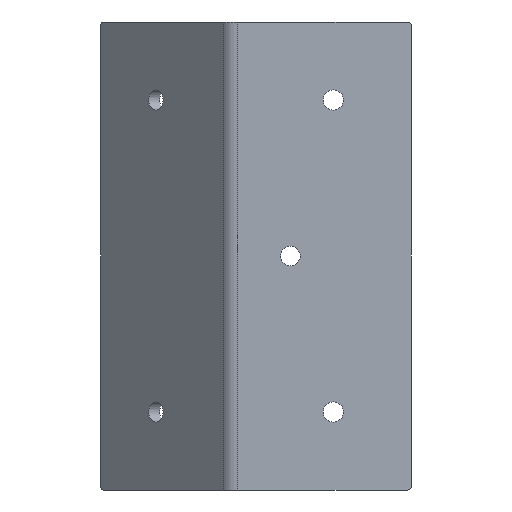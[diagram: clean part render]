
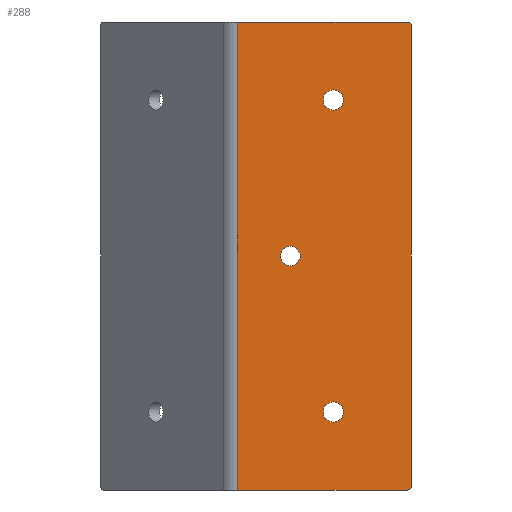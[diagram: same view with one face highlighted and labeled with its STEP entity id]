
A CAD part, left-side view. The second image highlights one B-rep face of the part: STEP entity #288.
In plain terms, the highlighted planar face has unit normal (-1, 0, 0).
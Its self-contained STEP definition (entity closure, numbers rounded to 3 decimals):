
#171=CARTESIAN_POINT('',(128.946,-31.428,2256.904));
#172=DIRECTION('',(-1.,0.,0.));
#173=DIRECTION('',(0.,-1.,0.));
#174=AXIS2_PLACEMENT_3D('',#171,#172,#173);
#175=PLANE('',#174);
#176=CARTESIAN_POINT('',(128.946,-48.786,2194.404));
#177=VERTEX_POINT('',#176);
#178=CARTESIAN_POINT('',(128.946,-48.786,2199.404));
#179=VERTEX_POINT('',#178);
#180=CARTESIAN_POINT('',(128.946,-48.786,2196.904));
#181=DIRECTION('',(1.,0.,0.));
#182=DIRECTION('',(0.,0.,-1.));
#183=AXIS2_PLACEMENT_3D('',#180,#181,#182);
#184=CIRCLE('',#183,2.5);
#185=EDGE_CURVE('',#177,#179,#184,.T.);
#186=ORIENTED_EDGE('',*,*,#185,.T.);
#187=CARTESIAN_POINT('',(128.946,-48.786,2196.904));
#188=DIRECTION('',(1.,0.,0.));
#189=DIRECTION('',(0.,0.,-1.));
#190=AXIS2_PLACEMENT_3D('',#187,#188,#189);
#191=CIRCLE('',#190,2.5);
#192=EDGE_CURVE('',#179,#177,#191,.T.);
#193=ORIENTED_EDGE('',*,*,#192,.T.);
#194=EDGE_LOOP('',(#186,#193));
#195=FACE_BOUND('',#194,.T.);
#196=CARTESIAN_POINT('',(128.946,-57.186,2156.904));
#197=VERTEX_POINT('',#196);
#198=CARTESIAN_POINT('',(128.946,-62.386,2156.904));
#199=VERTEX_POINT('',#198);
#200=CARTESIAN_POINT('',(128.946,-59.786,2156.904));
#201=DIRECTION('',(-1.,0.,0.));
#202=DIRECTION('',(0.,-1.,0.));
#203=AXIS2_PLACEMENT_3D('',#200,#201,#202);
#204=CIRCLE('',#203,2.6);
#205=EDGE_CURVE('',#197,#199,#204,.T.);
#206=ORIENTED_EDGE('',*,*,#205,.F.);
#207=CARTESIAN_POINT('',(128.946,-59.786,2156.904));
#208=DIRECTION('',(-1.,0.,0.));
#209=DIRECTION('',(0.,-1.,0.));
#210=AXIS2_PLACEMENT_3D('',#207,#208,#209);
#211=CIRCLE('',#210,2.6);
#212=EDGE_CURVE('',#199,#197,#211,.T.);
#213=ORIENTED_EDGE('',*,*,#212,.F.);
#214=EDGE_LOOP('',(#206,#213));
#215=FACE_BOUND('',#214,.T.);
#216=CARTESIAN_POINT('',(128.946,-57.186,2236.904));
#217=VERTEX_POINT('',#216);
#218=CARTESIAN_POINT('',(128.946,-62.386,2236.904));
#219=VERTEX_POINT('',#218);
#220=CARTESIAN_POINT('',(128.946,-59.786,2236.904));
#221=DIRECTION('',(-1.,0.,0.));
#222=DIRECTION('',(0.,-1.,0.));
#223=AXIS2_PLACEMENT_3D('',#220,#221,#222);
#224=CIRCLE('',#223,2.6);
#225=EDGE_CURVE('',#217,#219,#224,.T.);
#226=ORIENTED_EDGE('',*,*,#225,.F.);
#227=CARTESIAN_POINT('',(128.946,-59.786,2236.904));
#228=DIRECTION('',(-1.,0.,0.));
#229=DIRECTION('',(0.,-1.,0.));
#230=AXIS2_PLACEMENT_3D('',#227,#228,#229);
#231=CIRCLE('',#230,2.6);
#232=EDGE_CURVE('',#219,#217,#231,.T.);
#233=ORIENTED_EDGE('',*,*,#232,.F.);
#234=EDGE_LOOP('',(#226,#233));
#235=FACE_BOUND('',#234,.T.);
#236=CARTESIAN_POINT('',(128.946,-78.786,2256.904));
#237=VERTEX_POINT('',#236);
#238=CARTESIAN_POINT('',(128.946,-35.2,2256.904));
#239=VERTEX_POINT('',#238);
#240=CARTESIAN_POINT('',(128.946,-78.786,2256.904));
#241=DIRECTION('',(0.,1.,-0.));
#242=VECTOR('',#241,43.586);
#243=LINE('',#240,#242);
#244=EDGE_CURVE('',#237,#239,#243,.T.);
#245=ORIENTED_EDGE('',*,*,#244,.T.);
#246=CARTESIAN_POINT('',(128.946,-35.2,2136.904));
#247=VERTEX_POINT('',#246);
#248=CARTESIAN_POINT('',(128.946,-35.2,2256.904));
#249=DIRECTION('',(-0.,-0.,-1.));
#250=VECTOR('',#249,120.);
#251=LINE('',#248,#250);
#252=EDGE_CURVE('',#239,#247,#251,.T.);
#253=ORIENTED_EDGE('',*,*,#252,.T.);
#254=CARTESIAN_POINT('',(128.946,-78.786,2136.904));
#255=VERTEX_POINT('',#254);
#256=CARTESIAN_POINT('',(128.946,-78.786,2136.904));
#257=DIRECTION('',(0.,1.,-0.));
#258=VECTOR('',#257,43.586);
#259=LINE('',#256,#258);
#260=EDGE_CURVE('',#255,#247,#259,.T.);
#261=ORIENTED_EDGE('',*,*,#260,.F.);
#262=CARTESIAN_POINT('',(128.946,-79.786,2137.904));
#263=VERTEX_POINT('',#262);
#264=CARTESIAN_POINT('',(128.946,-78.786,2137.904));
#265=DIRECTION('',(-1.,0.,0.));
#266=DIRECTION('',(0.,0.,1.));
#267=AXIS2_PLACEMENT_3D('',#264,#265,#266);
#268=CIRCLE('',#267,1.);
#269=EDGE_CURVE('',#255,#263,#268,.T.);
#270=ORIENTED_EDGE('',*,*,#269,.T.);
#271=CARTESIAN_POINT('',(128.946,-79.786,2255.904));
#272=VERTEX_POINT('',#271);
#273=CARTESIAN_POINT('',(128.946,-79.786,2137.904));
#274=DIRECTION('',(0.,0.,1.));
#275=VECTOR('',#274,118.);
#276=LINE('',#273,#275);
#277=EDGE_CURVE('',#263,#272,#276,.T.);
#278=ORIENTED_EDGE('',*,*,#277,.T.);
#279=CARTESIAN_POINT('',(128.946,-78.786,2255.904));
#280=DIRECTION('',(-1.,0.,0.));
#281=DIRECTION('',(0.,0.,1.));
#282=AXIS2_PLACEMENT_3D('',#279,#280,#281);
#283=CIRCLE('',#282,1.);
#284=EDGE_CURVE('',#272,#237,#283,.T.);
#285=ORIENTED_EDGE('',*,*,#284,.T.);
#286=EDGE_LOOP('',(#245,#253,#261,#270,#278,#285));
#287=FACE_BOUND('',#286,.T.);
#288=ADVANCED_FACE('',(#195,#215,#235,#287),#175,.T.);
